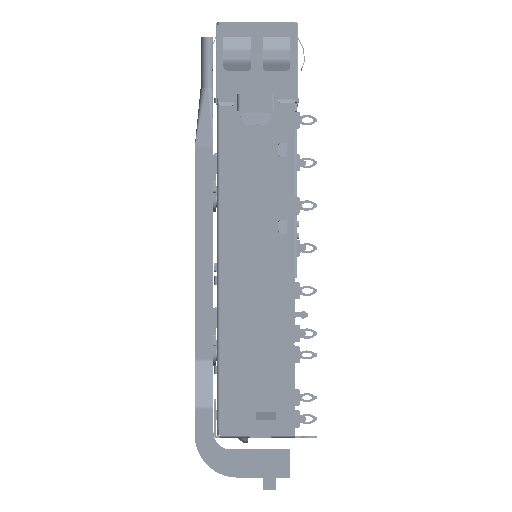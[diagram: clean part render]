
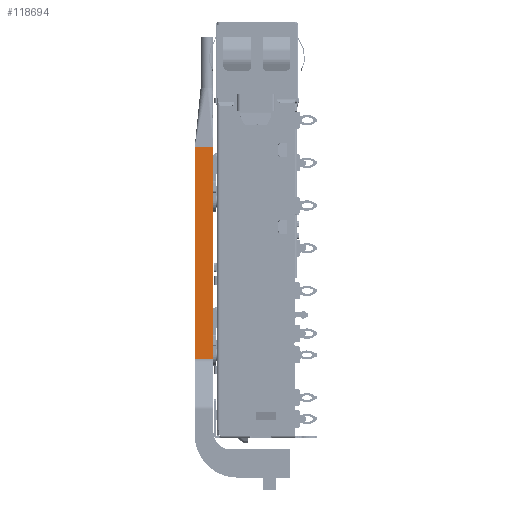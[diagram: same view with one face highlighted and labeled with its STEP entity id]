
A CAD part, left-side view. The second image highlights one B-rep face of the part: STEP entity #118694.
In plain terms, the highlighted planar face has unit normal (-1, 0, 0).
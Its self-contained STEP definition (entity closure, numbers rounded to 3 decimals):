
#7218 = ORIENTED_EDGE ( 'NONE', *, *, #91707, .T. ) ;
#7334 = VECTOR ( 'NONE', #84633, 1000. ) ;
#9617 = DIRECTION ( 'NONE',  ( 0., 0., 1. ) ) ;
#13332 = CARTESIAN_POINT ( 'NONE',  ( -39.67, -8.552, -14.7 ) ) ;
#16062 = ORIENTED_EDGE ( 'NONE', *, *, #72536, .T. ) ;
#26495 = VERTEX_POINT ( 'NONE', #67984 ) ;
#29945 = VERTEX_POINT ( 'NONE', #45999 ) ;
#30773 = VERTEX_POINT ( 'NONE', #94167 ) ;
#32930 = ORIENTED_EDGE ( 'NONE', *, *, #73135, .F. ) ;
#39498 = VECTOR ( 'NONE', #185063, 1000. ) ;
#42953 = DIRECTION ( 'NONE',  ( 0., 0., -1. ) ) ;
#45999 = CARTESIAN_POINT ( 'NONE',  ( -39.67, 0.37, -39.493 ) ) ;
#47964 = LINE ( 'NONE', #199674, #219693 ) ;
#67984 = CARTESIAN_POINT ( 'NONE',  ( -39.67, 0.37, -14.7 ) ) ;
#72536 = EDGE_CURVE ( 'NONE', #138463, #29945, #103514, .T. ) ;
#73135 = EDGE_CURVE ( 'NONE', #138463, #30773, #98217, .T. ) ;
#77963 = CARTESIAN_POINT ( 'NONE',  ( -39.67, 2.57, -39.67 ) ) ;
#82450 = PLANE ( 'NONE',  #181171 ) ;
#84633 = DIRECTION ( 'NONE',  ( 0., 1., 0. ) ) ;
#85214 = ORIENTED_EDGE ( 'NONE', *, *, #111023, .F. ) ;
#91707 = EDGE_CURVE ( 'NONE', #26495, #30773, #187328, .T. ) ;
#94167 = CARTESIAN_POINT ( 'NONE',  ( -39.67, 2.57, -14.7 ) ) ;
#95965 = EDGE_LOOP ( 'NONE', ( #32930, #16062, #85214, #7218 ) ) ;
#98217 = LINE ( 'NONE', #77963, #194844 ) ;
#103514 = LINE ( 'NONE', #135545, #39498 ) ;
#111023 = EDGE_CURVE ( 'NONE', #26495, #29945, #47964, .T. ) ;
#118694 = ADVANCED_FACE ( 'NONE', ( #135003 ), #82450, .F. ) ;
#134894 = CARTESIAN_POINT ( 'NONE',  ( -39.67, -8.552, -39.67 ) ) ;
#135003 = FACE_OUTER_BOUND ( 'NONE', #95965, .T. ) ;
#135545 = CARTESIAN_POINT ( 'NONE',  ( -39.67, 0.37, -39.493 ) ) ;
#137687 = CARTESIAN_POINT ( 'NONE',  ( -39.67, 2.57, -39.493 ) ) ;
#138463 = VERTEX_POINT ( 'NONE', #137687 ) ;
#167192 = DIRECTION ( 'NONE',  ( 1., 0., 0. ) ) ;
#181171 = AXIS2_PLACEMENT_3D ( 'NONE', #134894, #167192, #184435 ) ;
#184435 = DIRECTION ( 'NONE',  ( 0., 0., 1. ) ) ;
#185063 = DIRECTION ( 'NONE',  ( 0., -1., 0. ) ) ;
#187328 = LINE ( 'NONE', #13332, #7334 ) ;
#194844 = VECTOR ( 'NONE', #9617, 1000. ) ;
#199674 = CARTESIAN_POINT ( 'NONE',  ( -39.67, 0.37, -39.67 ) ) ;
#219693 = VECTOR ( 'NONE', #42953, 1000. ) ;
